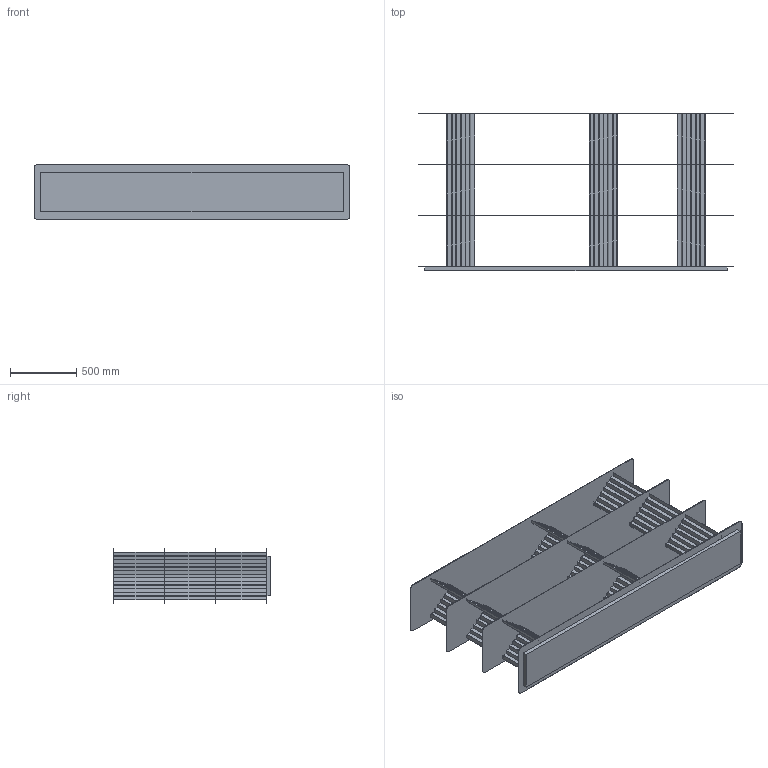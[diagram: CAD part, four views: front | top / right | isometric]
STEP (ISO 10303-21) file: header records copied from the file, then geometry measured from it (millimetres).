
FILE_DESCRIPTION (( 'STEP AP203' ), '1' );
FILE_NAME ('PLEC SHELVES L 3 NIVELES.STEP', '2025-05-08T09:55:41', ( '' ), ( '' ), 'SwSTEP 2.0', 'SolidWorks 2020', '' );
FILE_SCHEMA (( 'CONFIG_CONTROL_DESIGN' ));
Length unit declared in the file: millimetre
Products named in the file (1): PLEC SHELVES L 3 NIVELES
Bounding box: 2379 x 1187 x 420 mm (x, y, z)
Volume: 44170614.9 mm3; surface area: 14571997.4 mm2
Topology: 14 solids, 14 shells, 532 faces, 1512 edges, 1008 vertices
Faces by surface type: plane 516, cylinder 16
Entity records: 16999 total; most frequent: CARTESIAN_POINT 3053, ORIENTED_EDGE 3024, DIRECTION 2610, EDGE_CURVE 1512, LINE 1480, VECTOR 1480, VERTEX_POINT 1008, AXIS2_PLACEMENT_3D 565
